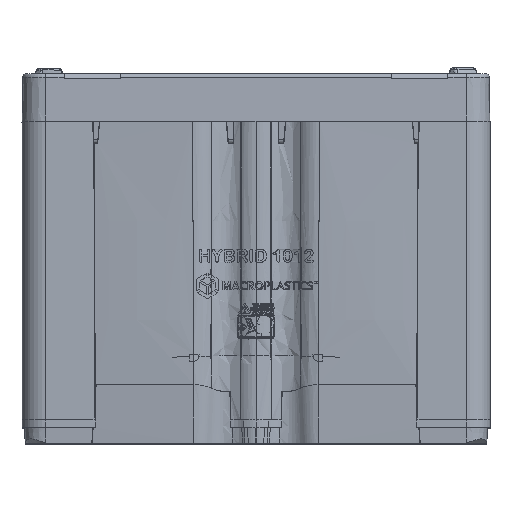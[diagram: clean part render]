
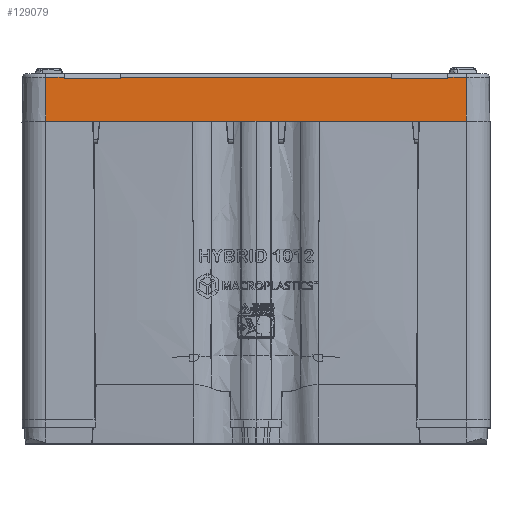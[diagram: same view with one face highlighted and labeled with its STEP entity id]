
A CAD part, top view. The second image highlights one B-rep face of the part: STEP entity #129079.
In plain terms, the highlighted planar face has unit normal (0, 0.018, 1).
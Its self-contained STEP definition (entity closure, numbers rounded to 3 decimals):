
#176 = LINE ( 'NONE', #49427, #232289 ) ;
#402 = DIRECTION ( 'NONE',  ( 0., 0.017, 1. ) ) ;
#2101 = DIRECTION ( 'NONE',  ( 0., 1., -0.017 ) ) ;
#2128 = ORIENTED_EDGE ( 'NONE', *, *, #105482, .F. ) ;
#3225 = CARTESIAN_POINT ( 'NONE',  ( -449.2, 688.4, 600. ) ) ;
#6420 = VERTEX_POINT ( 'NONE', #18014 ) ;
#12584 = EDGE_CURVE ( 'NONE', #256952, #278000, #163461, .T. ) ;
#18014 = CARTESIAN_POINT ( 'NONE',  ( -449.2, 782.14, 598.364 ) ) ;
#19831 = DIRECTION ( 'NONE',  ( 0.012, 1., -0.017 ) ) ;
#22808 = ORIENTED_EDGE ( 'NONE', *, *, #12584, .T. ) ;
#25013 = VECTOR ( 'NONE', #226889, 1000. ) ;
#26019 = ORIENTED_EDGE ( 'NONE', *, *, #281535, .T. ) ;
#28938 = EDGE_CURVE ( 'NONE', #297786, #78592, #176, .T. ) ;
#29491 = ORIENTED_EDGE ( 'NONE', *, *, #138727, .F. ) ;
#41733 = VECTOR ( 'NONE', #83717, 1000. ) ;
#44403 = EDGE_CURVE ( 'NONE', #82716, #298939, #72627, .T. ) ;
#49427 = CARTESIAN_POINT ( 'NONE',  ( 0., 782.14, 598.364 ) ) ;
#51789 = VECTOR ( 'NONE', #2101, 1000. ) ;
#52071 = EDGE_LOOP ( 'NONE', ( #291988, #29491, #165176, #260050, #123679, #2128, #260979, #277125, #92492, #56694, #22808, #26019 ) ) ;
#53819 = CARTESIAN_POINT ( 'NONE',  ( 0., 688.4, 600. ) ) ;
#54944 = DIRECTION ( 'NONE',  ( 0., -1., 0.017 ) ) ;
#55287 = VERTEX_POINT ( 'NONE', #79134 ) ;
#56694 = ORIENTED_EDGE ( 'NONE', *, *, #215429, .F. ) ;
#61830 = CARTESIAN_POINT ( 'NONE',  ( 290., 779.301, 598.413 ) ) ;
#69382 = LINE ( 'NONE', #294853, #309760 ) ;
#72627 = LINE ( 'NONE', #228206, #109193 ) ;
#78592 = VERTEX_POINT ( 'NONE', #249011 ) ;
#79134 = CARTESIAN_POINT ( 'NONE',  ( -449.2, 688.4, 600. ) ) ;
#82510 = CARTESIAN_POINT ( 'NONE',  ( -410.133, 790.185, 598.223 ) ) ;
#82716 = VERTEX_POINT ( 'NONE', #180422 ) ;
#83717 = DIRECTION ( 'NONE',  ( 1., 0., 0. ) ) ;
#87912 = VECTOR ( 'NONE', #117427, 1000. ) ;
#92492 = ORIENTED_EDGE ( 'NONE', *, *, #44403, .T. ) ;
#99692 = AXIS2_PLACEMENT_3D ( 'NONE', #53819, #402, #54944 ) ;
#105482 = EDGE_CURVE ( 'NONE', #55287, #6420, #178209, .T. ) ;
#109193 = VECTOR ( 'NONE', #121188, 1000. ) ;
#109808 = FACE_OUTER_BOUND ( 'NONE', #52071, .T. ) ;
#110877 = LINE ( 'NONE', #262488, #41733 ) ;
#111972 = VECTOR ( 'NONE', #19831, 1000. ) ;
#117427 = DIRECTION ( 'NONE',  ( 0.012, 1., -0.017 ) ) ;
#121188 = DIRECTION ( 'NONE',  ( -1., 0., 0. ) ) ;
#123403 = EDGE_CURVE ( 'NONE', #291351, #285208, #323233, .T. ) ;
#123679 = ORIENTED_EDGE ( 'NONE', *, *, #169499, .F. ) ;
#125664 = DIRECTION ( 'NONE',  ( -1., 0., 0. ) ) ;
#129079 = ADVANCED_FACE ( 'NONE', ( #109808 ), #316639, .T. ) ;
#131741 = CARTESIAN_POINT ( 'NONE',  ( 449.2, 688.4, 600. ) ) ;
#133839 = DIRECTION ( 'NONE',  ( -0.012, 1., -0.017 ) ) ;
#136608 = LINE ( 'NONE', #273437, #87912 ) ;
#138727 = EDGE_CURVE ( 'NONE', #325244, #78592, #250509, .T. ) ;
#138871 = DIRECTION ( 'NONE',  ( 0., 1., -0.017 ) ) ;
#140247 = CARTESIAN_POINT ( 'NONE',  ( 0., 688.4, 600. ) ) ;
#143732 = LINE ( 'NONE', #290952, #184614 ) ;
#148283 = CARTESIAN_POINT ( 'NONE',  ( 410., 779.301, 598.413 ) ) ;
#163461 = LINE ( 'NONE', #148283, #25013 ) ;
#165176 = ORIENTED_EDGE ( 'NONE', *, *, #196065, .F. ) ;
#166229 = CARTESIAN_POINT ( 'NONE',  ( 0., 782.14, 598.364 ) ) ;
#167152 = VECTOR ( 'NONE', #252582, 1000. ) ;
#169499 = EDGE_CURVE ( 'NONE', #6420, #285208, #183516, .T. ) ;
#178209 = LINE ( 'NONE', #3225, #51789 ) ;
#180422 = CARTESIAN_POINT ( 'NONE',  ( 449.2, 782.14, 598.364 ) ) ;
#183516 = LINE ( 'NONE', #166229, #167152 ) ;
#184614 = VECTOR ( 'NONE', #133839, 1000. ) ;
#192522 = EDGE_CURVE ( 'NONE', #209713, #82716, #69382, .T. ) ;
#196065 = EDGE_CURVE ( 'NONE', #291351, #325244, #110877, .T. ) ;
#197502 = CARTESIAN_POINT ( 'NONE',  ( -410.035, 782.14, 598.364 ) ) ;
#203876 = CARTESIAN_POINT ( 'NONE',  ( -410., 779.301, 598.413 ) ) ;
#207318 = CARTESIAN_POINT ( 'NONE',  ( -290., 779.301, 598.413 ) ) ;
#209713 = VERTEX_POINT ( 'NONE', #131741 ) ;
#210231 = LINE ( 'NONE', #140247, #246813 ) ;
#215429 = EDGE_CURVE ( 'NONE', #256952, #298939, #136608, .T. ) ;
#217781 = CARTESIAN_POINT ( 'NONE',  ( 410.035, 782.14, 598.364 ) ) ;
#226889 = DIRECTION ( 'NONE',  ( -1., 0., 0. ) ) ;
#228206 = CARTESIAN_POINT ( 'NONE',  ( 0., 782.14, 598.364 ) ) ;
#229245 = CARTESIAN_POINT ( 'NONE',  ( -289.867, 790.185, 598.223 ) ) ;
#232289 = VECTOR ( 'NONE', #125664, 1000. ) ;
#244970 = DIRECTION ( 'NONE',  ( 1., 0., 0. ) ) ;
#246813 = VECTOR ( 'NONE', #244970, 1000. ) ;
#249011 = CARTESIAN_POINT ( 'NONE',  ( -289.965, 782.14, 598.364 ) ) ;
#250509 = LINE ( 'NONE', #229245, #111972 ) ;
#252582 = DIRECTION ( 'NONE',  ( 1., 0., 0. ) ) ;
#256952 = VERTEX_POINT ( 'NONE', #322431 ) ;
#260050 = ORIENTED_EDGE ( 'NONE', *, *, #123403, .T. ) ;
#260979 = ORIENTED_EDGE ( 'NONE', *, *, #330337, .T. ) ;
#262488 = CARTESIAN_POINT ( 'NONE',  ( -410., 779.301, 598.413 ) ) ;
#273437 = CARTESIAN_POINT ( 'NONE',  ( 410.133, 790.185, 598.223 ) ) ;
#277125 = ORIENTED_EDGE ( 'NONE', *, *, #192522, .T. ) ;
#278000 = VERTEX_POINT ( 'NONE', #61830 ) ;
#281535 = EDGE_CURVE ( 'NONE', #278000, #297786, #143732, .T. ) ;
#285208 = VERTEX_POINT ( 'NONE', #197502 ) ;
#290952 = CARTESIAN_POINT ( 'NONE',  ( 289.867, 790.185, 598.223 ) ) ;
#291351 = VERTEX_POINT ( 'NONE', #203876 ) ;
#291988 = ORIENTED_EDGE ( 'NONE', *, *, #28938, .T. ) ;
#294583 = VECTOR ( 'NONE', #318086, 1000. ) ;
#294853 = CARTESIAN_POINT ( 'NONE',  ( 449.2, 688.4, 600. ) ) ;
#297786 = VERTEX_POINT ( 'NONE', #333808 ) ;
#298939 = VERTEX_POINT ( 'NONE', #217781 ) ;
#309760 = VECTOR ( 'NONE', #138871, 1000. ) ;
#316639 = PLANE ( 'NONE',  #99692 ) ;
#318086 = DIRECTION ( 'NONE',  ( -0.012, 1., -0.017 ) ) ;
#322431 = CARTESIAN_POINT ( 'NONE',  ( 410., 779.301, 598.413 ) ) ;
#323233 = LINE ( 'NONE', #82510, #294583 ) ;
#325244 = VERTEX_POINT ( 'NONE', #207318 ) ;
#330337 = EDGE_CURVE ( 'NONE', #55287, #209713, #210231, .T. ) ;
#333808 = CARTESIAN_POINT ( 'NONE',  ( 289.965, 782.14, 598.364 ) ) ;
